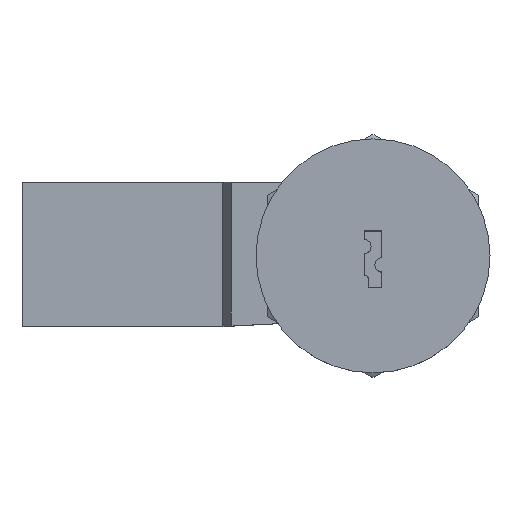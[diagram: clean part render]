
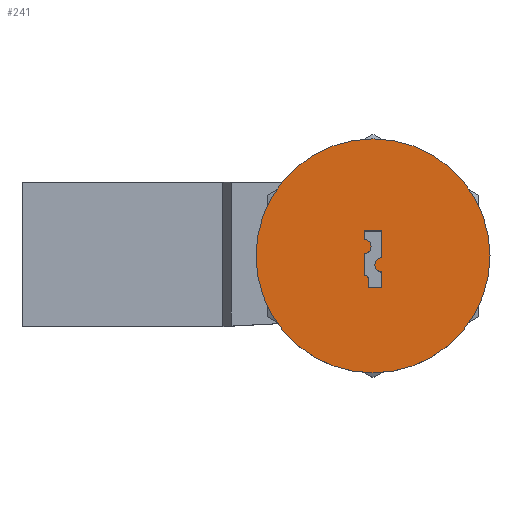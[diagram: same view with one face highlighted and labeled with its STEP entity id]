
A CAD part, top view. The second image highlights one B-rep face of the part: STEP entity #241.
In plain terms, the highlighted planar face has unit normal (0, 0, 1).
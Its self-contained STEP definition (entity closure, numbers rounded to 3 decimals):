
#241 = ADVANCED_FACE( '', ( #546, #547 ), #548, .F. );
#546 = FACE_OUTER_BOUND( '', #903, .T. );
#547 = FACE_BOUND( '', #904, .T. );
#548 = PLANE( '', #905 );
#903 = EDGE_LOOP( '', ( #1587 ) );
#904 = EDGE_LOOP( '', ( #1588, #1589, #1590, #1591, #1592, #1593, #1594, #1595, #1596, #1597 ) );
#905 = AXIS2_PLACEMENT_3D( '', #1598, #1599, #1600 );
#1587 = ORIENTED_EDGE( '', *, *, #2326, .F. );
#1588 = ORIENTED_EDGE( '', *, *, #2327, .F. );
#1589 = ORIENTED_EDGE( '', *, *, #2328, .F. );
#1590 = ORIENTED_EDGE( '', *, *, #2232, .F. );
#1591 = ORIENTED_EDGE( '', *, *, #2329, .T. );
#1592 = ORIENTED_EDGE( '', *, *, #2096, .F. );
#1593 = ORIENTED_EDGE( '', *, *, #2330, .F. );
#1594 = ORIENTED_EDGE( '', *, *, #2166, .F. );
#1595 = ORIENTED_EDGE( '', *, *, #2162, .T. );
#1596 = ORIENTED_EDGE( '', *, *, #2171, .F. );
#1597 = ORIENTED_EDGE( '', *, *, #2331, .T. );
#1598 = CARTESIAN_POINT( '', ( 0., 0., 6. ) );
#1599 = DIRECTION( '', ( 0., 0., -1. ) );
#1600 = DIRECTION( '', ( -1., 0., 0. ) );
#2096 = EDGE_CURVE( '', #2513, #2515, #2516, .T. );
#2162 = EDGE_CURVE( '', #2626, #2624, #2627, .T. );
#2166 = EDGE_CURVE( '', #2626, #2632, #2633, .T. );
#2171 = EDGE_CURVE( '', #2638, #2624, #2640, .T. );
#2232 = EDGE_CURVE( '', #2736, #2738, #2739, .T. );
#2326 = EDGE_CURVE( '', #2873, #2873, #2874, .T. );
#2327 = EDGE_CURVE( '', #2875, #2876, #2877, .T. );
#2328 = EDGE_CURVE( '', #2738, #2875, #2878, .T. );
#2329 = EDGE_CURVE( '', #2736, #2515, #2879, .T. );
#2330 = EDGE_CURVE( '', #2632, #2513, #2880, .T. );
#2331 = EDGE_CURVE( '', #2638, #2876, #2881, .T. );
#2513 = VERTEX_POINT( '', #3109 );
#2515 = VERTEX_POINT( '', #3112 );
#2516 = LINE( '', #3113, #3114 );
#2624 = VERTEX_POINT( '', #3296 );
#2626 = VERTEX_POINT( '', #3299 );
#2627 = CIRCLE( '', #3300, 0.6 );
#2632 = VERTEX_POINT( '', #3307 );
#2633 = LINE( '', #3308, #3309 );
#2638 = VERTEX_POINT( '', #3316 );
#2640 = LINE( '', #3319, #3320 );
#2736 = VERTEX_POINT( '', #3505 );
#2738 = VERTEX_POINT( '', #3508 );
#2739 = LINE( '', #3509, #3510 );
#2873 = VERTEX_POINT( '', #3762 );
#2874 = CIRCLE( '', #3763, 15. );
#2875 = VERTEX_POINT( '', #3764 );
#2876 = VERTEX_POINT( '', #3765 );
#2877 = LINE( '', #3766, #3767 );
#2878 = LINE( '', #3768, #3769 );
#2879 = CIRCLE( '', #3770, 0.9 );
#2880 = LINE( '', #3771, #3772 );
#2881 = CIRCLE( '', #3773, 0.9 );
#3109 = CARTESIAN_POINT( '', ( 1.15, -4.1, 6. ) );
#3112 = CARTESIAN_POINT( '', ( 1.15, -2.05, 6. ) );
#3113 = CARTESIAN_POINT( '', ( 1.15, -4.1, 6. ) );
#3114 = VECTOR( '', #4046, 1000. );
#3296 = CARTESIAN_POINT( '', ( -1.15, -2.5, 6. ) );
#3299 = CARTESIAN_POINT( '', ( -0.55, -3.1, 6. ) );
#3300 = AXIS2_PLACEMENT_3D( '', #4114, #4115, #4116 );
#3307 = CARTESIAN_POINT( '', ( -0.55, -4.1, 6. ) );
#3308 = CARTESIAN_POINT( '', ( -0.55, -3.1, 6. ) );
#3309 = VECTOR( '', #4119, 1000. );
#3316 = CARTESIAN_POINT( '', ( -1.15, 0.3, 6. ) );
#3319 = CARTESIAN_POINT( '', ( -1.15, 0.3, 6. ) );
#3320 = VECTOR( '', #4123, 1000. );
#3505 = CARTESIAN_POINT( '', ( 1.15, -0.25, 6. ) );
#3508 = CARTESIAN_POINT( '', ( 1.15, 3.2, 6. ) );
#3509 = CARTESIAN_POINT( '', ( 1.15, -0.25, 6. ) );
#3510 = VECTOR( '', #4178, 1000. );
#3762 = CARTESIAN_POINT( '', ( -15., 0., 6. ) );
#3763 = AXIS2_PLACEMENT_3D( '', #4267, #4268, #4269 );
#3764 = CARTESIAN_POINT( '', ( -1.15, 3.2, 6. ) );
#3765 = CARTESIAN_POINT( '', ( -1.15, 2.1, 6. ) );
#3766 = CARTESIAN_POINT( '', ( -1.15, 3.2, 6. ) );
#3767 = VECTOR( '', #4270, 1000. );
#3768 = CARTESIAN_POINT( '', ( 0., 3.2, 6. ) );
#3769 = VECTOR( '', #4271, 1000. );
#3770 = AXIS2_PLACEMENT_3D( '', #4272, #4273, #4274 );
#3771 = CARTESIAN_POINT( '', ( -0.55, -4.1, 6. ) );
#3772 = VECTOR( '', #4275, 1000. );
#3773 = AXIS2_PLACEMENT_3D( '', #4276, #4277, #4278 );
#4046 = DIRECTION( '', ( 0., 1., 0. ) );
#4114 = CARTESIAN_POINT( '', ( -1.15, -3.1, 6. ) );
#4115 = DIRECTION( '', ( 0., 0., 1. ) );
#4116 = DIRECTION( '', ( 1., 0., 0. ) );
#4119 = DIRECTION( '', ( 0., -1., 0. ) );
#4123 = DIRECTION( '', ( 0., -1., 0. ) );
#4178 = DIRECTION( '', ( 0., 1., 0. ) );
#4267 = CARTESIAN_POINT( '', ( 0., 0., 6. ) );
#4268 = DIRECTION( '', ( 0., 0., -1. ) );
#4269 = DIRECTION( '', ( -1., 0., 0. ) );
#4270 = DIRECTION( '', ( 0., -1., 0. ) );
#4271 = DIRECTION( '', ( -1., 0., 0. ) );
#4272 = CARTESIAN_POINT( '', ( 1.15, -1.15, 6. ) );
#4273 = DIRECTION( '', ( 0., 0., 1. ) );
#4274 = DIRECTION( '', ( 1., 0., 0. ) );
#4275 = DIRECTION( '', ( 1., 0., 0. ) );
#4276 = CARTESIAN_POINT( '', ( -1.15, 1.2, 6. ) );
#4277 = DIRECTION( '', ( 0., 0., 1. ) );
#4278 = DIRECTION( '', ( 1., 0., 0. ) );
